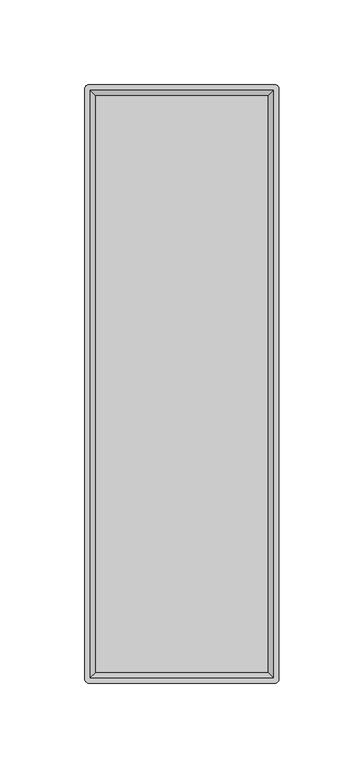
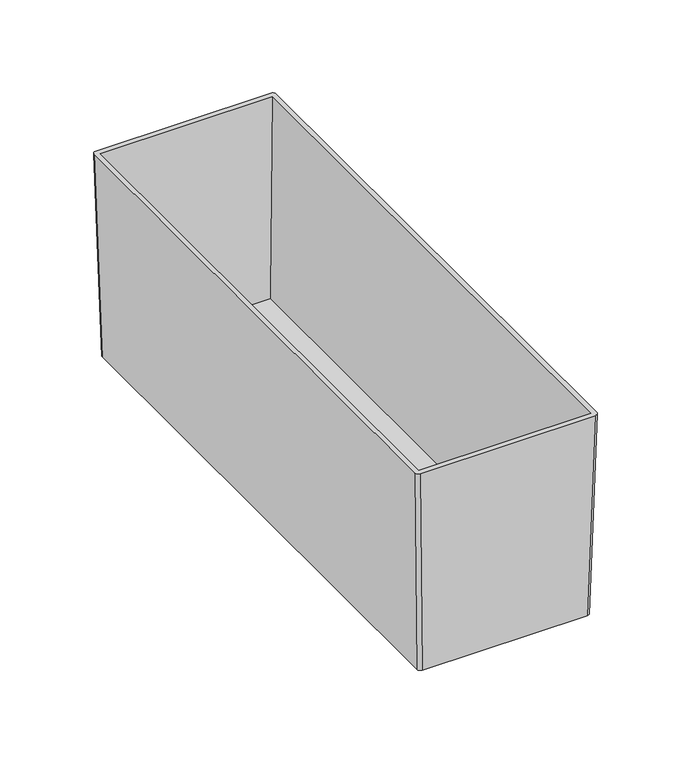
"""IFC4 building model written with IfcOpenShell, lengths in millimetres: furniture geometry."""

from ifc_helpers import new_model, si_unit, point, frame, origin, place, context, project, spatial, circle_curve, trimmed, source, transform, mapped, element, save
from ifc_brep_helpers import plane_surface, extruded_surface, advanced_brep


def furniture_46c0600c(model_context):
    return source(origin(), model_context, "Body", "AdvancedBrep", [
        advanced_brep(
        [(51.7525, 173.0375, 1431.29), (53.975, 170.815, 1431.29), (53.975, -170.815, 1431.29), (51.7525, -173.0375, 1431.29), (-51.7525, -173.0375, 1431.29), (-53.975, -170.815, 1431.29), (-53.975, 170.815, 1431.29), (-51.7525, 173.0375, 1431.29), (54.9275, 176.2125, 1564.64), (-54.9275, 176.2125, 1564.64), (-57.15, 173.99, 1564.64), (-57.15, -173.99, 1564.64), (-54.9275, -176.2125, 1564.64), (54.9275, -176.2125, 1564.64), (57.15, -173.99, 1564.64), (57.15, 173.99, 1564.64), (-53.975, 173.0375, 1564.64), (53.975, 173.0375, 1564.64), (53.975, -173.0375, 1564.64), (-53.975, -173.0375, 1564.64), (50.8, 169.8625, 1433.83), (-50.8, 169.8625, 1433.83), (-50.8, -169.8625, 1433.83), (50.8, -169.8625, 1433.83)],
        [
            (0, 1, circle_curve(frame((51.7525, 170.815, 1431.29), z_axis=(0.0, 0.0, -1.0), x_axis=(-1.0, 0.0, 0.0)), 2.2225)),
            (1, 2),
            (2, 3, circle_curve(frame((51.7525, -170.815, 1431.29), z_axis=(0.0, 0.0, -1.0), x_axis=(-1.0, 0.0, 0.0)), 2.2225)),
            (3, 4),
            (4, 5, circle_curve(frame((-51.7525, -170.815, 1431.29), z_axis=(0.0, 0.0, -1.0), x_axis=(-1.0, 0.0, 0.0)), 2.2225)),
            (5, 6),
            (6, 7, circle_curve(frame((-51.7525, 170.815, 1431.29), z_axis=(0.0, 0.0, -1.0), x_axis=(-1.0, 0.0, 0.0)), 2.2225)),
            (7, 0),
            (8, 9),
            (9, 10, circle_curve(frame((-54.9275, 173.99, 1564.64), z_axis=(0.0, 0.0, 1.0), x_axis=(-1.0, 0.0, 0.0)), 2.2225)),
            (10, 11),
            (11, 12, circle_curve(frame((-54.9275, -173.99, 1564.64), z_axis=(0.0, 0.0, 1.0), x_axis=(-1.0, 0.0, 0.0)), 2.2225)),
            (12, 13),
            (13, 14, circle_curve(frame((54.9275, -173.99, 1564.64), z_axis=(0.0, 0.0, 1.0), x_axis=(-1.0, 0.0, 0.0)), 2.2225)),
            (14, 15),
            (15, 8, circle_curve(frame((54.9275, 173.99, 1564.64), z_axis=(0.0, 0.0, 1.0), x_axis=(-1.0, 0.0, 0.0)), 2.2225)),
            (16, 17),
            (17, 18),
            (18, 19),
            (19, 16),
            (7, 9),
            (8, 0),
            (6, 10),
            (5, 11),
            (4, 12),
            (3, 13),
            (2, 14),
            (1, 15),
            (20, 21),
            (21, 22),
            (22, 23),
            (23, 20),
            (20, 17),
            (16, 21),
            (19, 22),
            (18, 23),
        ],
        [
            plane_surface(frame((0.0, 0.0, 1431.29), z_axis=(0.0, 0.0, -1.0), x_axis=(-1.0, 0.0, 0.0))),
            plane_surface(frame((0.0, 0.0, 1564.64), z_axis=(0.0, 0.0, 1.0), x_axis=(-1.0, 0.0, 0.0))),
            plane_surface(frame((0.0, 176.2125, 1564.64), z_axis=(0.0, 0.999716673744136, -0.023802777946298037), x_axis=(1.0, 0.0, 0.0))),
            extruded_surface(trimmed(circle_curve(frame((-54.9275, 173.99, 1564.64), z_axis=(0.0, 0.0, -1.0), x_axis=(-1.0, 0.0, 0.0)), 2.2225), [point((-57.15, 173.99, 1564.64))], [point((-54.9275, 176.2125, 1564.64))], True, "CARTESIAN"), (3.1750000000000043, -3.1750000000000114, -133.35000000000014), 133.42557382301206),
            plane_surface(frame((-57.15, 0.0, 1564.64), z_axis=(-0.9997166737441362, 0.0, -0.02380277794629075), x_axis=(0.0, 1.0, 0.0))),
            extruded_surface(trimmed(circle_curve(frame((-54.9275, -173.99, 1564.64), z_axis=(0.0, 0.0, -1.0), x_axis=(-1.0, 0.0, 0.0)), 2.2225), [point((-54.9275, -176.2125, 1564.64))], [point((-57.15, -173.99, 1564.64))], True, "CARTESIAN"), (3.1750000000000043, 3.1750000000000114, -133.35000000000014), 133.42557382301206),
            plane_surface(frame((0.0, -176.2125, 1564.64), z_axis=(0.0, -0.9997166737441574, -0.023802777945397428), x_axis=(-1.0, 0.0, 0.0))),
            extruded_surface(trimmed(circle_curve(frame((54.9275, -173.99, 1564.64), z_axis=(0.0, 0.0, -1.0), x_axis=(-1.0, 0.0, 0.0)), 2.2225), [point((57.15, -173.99, 1564.64))], [point((54.9275, -176.2125, 1564.64))], True, "CARTESIAN"), (-3.1750000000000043, 3.1750000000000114, -133.35000000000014), 133.42557382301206),
            plane_surface(frame((57.15, 0.0, 1564.64), z_axis=(0.9997166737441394, 0.0, -0.023802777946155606), x_axis=(0.0, -1.0, 0.0))),
            extruded_surface(trimmed(circle_curve(frame((54.9275, 173.99, 1564.64), z_axis=(0.0, 0.0, -1.0), x_axis=(-1.0, 0.0, 0.0)), 2.2225), [point((54.9275, 176.2125, 1564.64))], [point((57.15, 173.99, 1564.64))], True, "CARTESIAN"), (-3.1750000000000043, -3.1750000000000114, -133.35000000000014), 133.42557382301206),
            plane_surface(frame((0.0, 0.0, 1433.83), z_axis=(0.0, 0.0, 1.0), x_axis=(-1.0, 0.0, 0.0))),
            plane_surface(frame((0.0, 173.0375, 1564.64), z_axis=(0.0, -0.9997055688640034, 0.0242646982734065), x_axis=(1.0, 0.0, 0.0))),
            plane_surface(frame((-53.975, 0.0, 1564.64), z_axis=(0.9997055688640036, 0.0, 0.024264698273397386), x_axis=(0.0, 1.0, 0.0))),
            plane_surface(frame((0.0, -173.0375, 1564.64), z_axis=(0.0, 0.9997055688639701, 0.024264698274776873), x_axis=(-1.0, 0.0, 0.0))),
            plane_surface(frame((53.975, 0.0, 1564.64), z_axis=(-0.9997055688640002, 0.0, 0.02426469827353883), x_axis=(0.0, -1.0, 0.0))),
        ],
        [
            (0, [[1, 2, 3, 4, 5, 6, 7, 8]]),
            (1, [[9, 10, 11, 12, 13, 14, 15, 16], [17, 18, 19, 20]]),
            (2, [[-8, 21, -9, 22]]),
            (3, [[-7, 23, -10, -21]]),
            (4, [[-6, 24, -11, -23]]),
            (5, [[-5, 25, -12, -24]]),
            (6, [[-4, 26, -13, -25]]),
            (7, [[-3, 27, -14, -26]]),
            (8, [[-2, 28, -15, -27]]),
            (9, [[-1, -22, -16, -28]]),
            (10, [[29, 30, 31, 32]]),
            (11, [[-29, 33, -17, 34]]),
            (12, [[-30, -34, -20, 35]]),
            (13, [[-31, -35, -19, 36]]),
            (14, [[-32, -36, -18, -33]]),
        ],
    ),
    ])


if __name__ == "__main__":
    model = new_model("IFC4")
    model_context = context("Model", 3, world=origin())
    ifc_project = project(units=[si_unit("LENGTHUNIT", "METRE", prefix="MILLI")], contexts=[model_context])
    site = spatial("IfcSite", under=ifc_project)
    building = spatial("IfcBuilding", under=site)
    placement = place(None, origin())
    furniture_shape = furniture_46c0600c(model_context)
    element("IfcFurniture", 1, ObjectType="HermanMiller_CoStruc_CO231_Subcontainer : 5 1/4\"H x 13 7/8\"D x 4 1/2\"W", at=placement, inside=building, context=model_context, shape_type="MappedRepresentation", body=[
        mapped(furniture_shape, transform((0.0, 0.0, 0.0), x_axis=(1.0, 0.0, 0.0), y_axis=(0.0, 1.0, 0.0), z_axis=(0.0, 0.0, 1.0))),
    ])
    save(model, "model.ifc")
